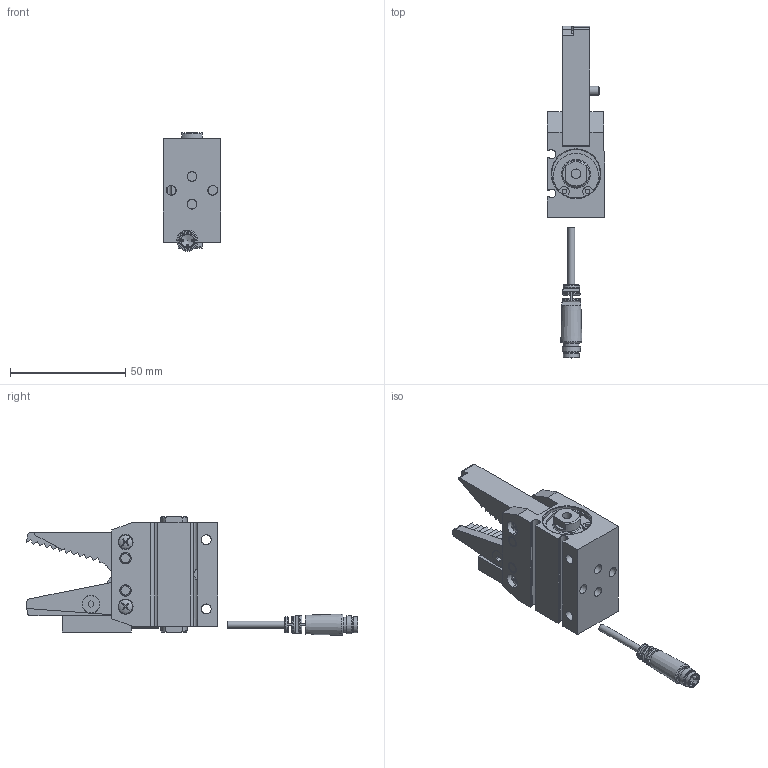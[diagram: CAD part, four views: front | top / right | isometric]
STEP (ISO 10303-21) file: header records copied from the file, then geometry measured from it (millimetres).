
FILE_DESCRIPTION(('STEP AP214'),'1');
FILE_NAME('CA.GZA.AA24.NOSN.stp','2018-06-05T13:32:09',(' '),(' '),'Spatial InterOp 3D',' ',' ');
FILE_SCHEMA(('AUTOMOTIVE_DESIGN { 1 0 10303 214 1 1 1 1 }'));
Length unit declared in the file: millimetre
Products named in the file (8): CA.GZA.AA24.NOSN; KT58NM8; V.TSP4x16; SP.5X20; GZA.AA24.S; GZA.AA24.3; GZA.AA24.2; GZA.AA24.1
Assembly tree (8 placements, depth 2):
  CA.GZA.AA24.NOSN
    KT58NM8
    V.TSP4x16
    SP.5X20  x2
    GZA.AA24.S
    GZA.AA24.3
    GZA.AA24.2
    GZA.AA24.1
Bounding box: 25 x 143.91 x 51.44 mm (x, y, z)
Volume: 55665.6 mm3; surface area: 24554.4 mm2
Topology: 12 solids, 13 shells, 457 faces, 1147 edges, 742 vertices
Faces by surface type: plane 248, cylinder 125, torus 44, cone 33, sphere 7
Full cylindrical faces by diameter (mm): 1 x3, 1.5 x1, 2.5 x1, 3 x2, 3.2 x1, 3.4 x1, 4 x1, 4.1 x3, 4.3 x8, 5 x8, 5.8 x1, 6 x1, 6.45 x1, 6.6 x1, 6.9 x1, 7.93 x1
Entity records: 17276 total; most frequent: CARTESIAN_POINT 2702, DIRECTION 2332, ORIENTED_EDGE 2110, EDGE_CURVE 1055, AXIS2_PLACEMENT_3D 872, VERTEX_POINT 715, LINE 588, VECTOR 588
